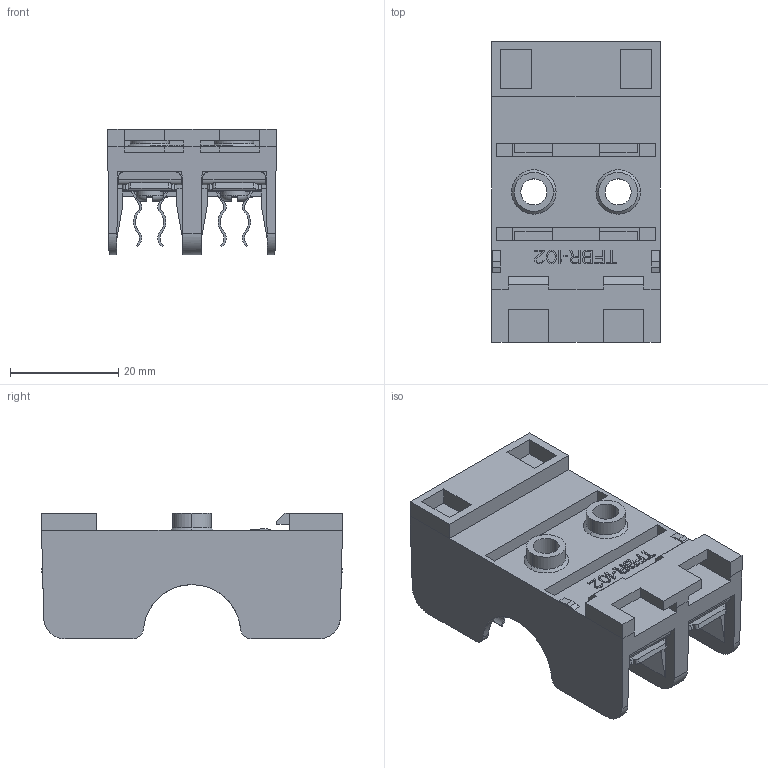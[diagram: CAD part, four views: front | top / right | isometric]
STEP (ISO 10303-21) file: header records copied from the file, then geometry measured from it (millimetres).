
FILE_DESCRIPTION((''),'2;1');
FILE_NAME('PRT0007','2016-06-16T',('Administrator'),(''),'PRO/ENGINEER BY PARAMETRIC TECHNOLOGY CORPORATION, 2012360','PRO/ENGINEER BY PARAMETRIC TECHNOLOGY CORPORATION, 2012360','');
FILE_SCHEMA(('CONFIG_CONTROL_DESIGN'));
Length unit declared in the file: inch
Products named in the file (1): PRT0007
Bounding box: 31.1 x 55.6 x 23.2 mm (x, y, z)
Volume: 14315.5 mm3; surface area: 16320.8 mm2
Topology: 1 solids, 9 shells, 1517 faces, 4369 edges, 2908 vertices
Faces by surface type: plane 1250, cylinder 255, torus 8, cone 4
Entity records: 49672 total; most frequent: CARTESIAN_POINT 9335, ORIENTED_EDGE 8738, DIRECTION 7879, EDGE_CURVE 4369, VECTOR 3693, LINE 3693, VERTEX_POINT 2908, AXIS2_PLACEMENT_3D 2093
